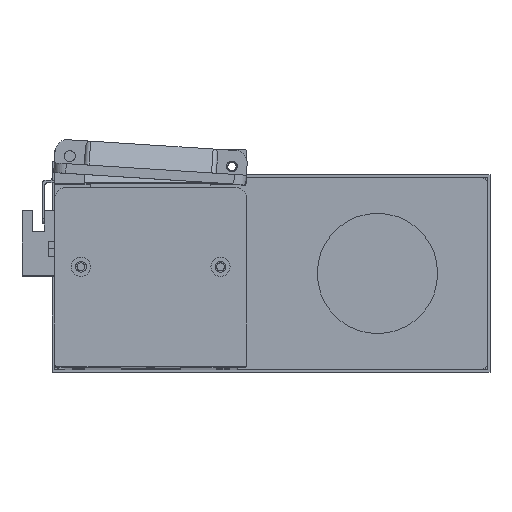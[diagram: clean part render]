
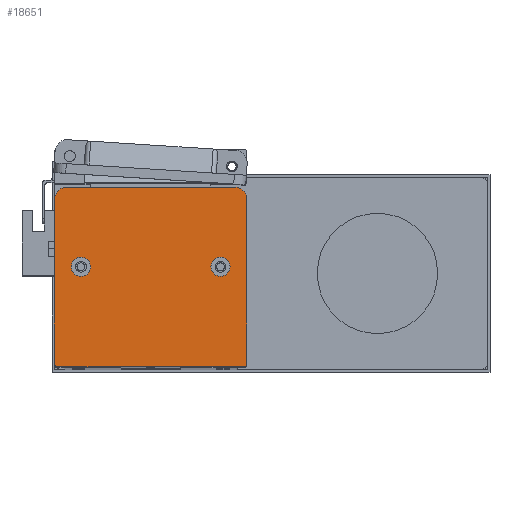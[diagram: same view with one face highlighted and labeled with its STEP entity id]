
A CAD part, top view. The second image highlights one B-rep face of the part: STEP entity #18651.
In plain terms, the highlighted planar face has unit normal (0, 0, 1).
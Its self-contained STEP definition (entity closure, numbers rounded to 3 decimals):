
#401 = EDGE_CURVE ( 'NONE', #26322, #2521, #24214, .T. ) ;
#1165 = DIRECTION ( 'NONE',  ( 1., 0., 0. ) ) ;
#1219 = ORIENTED_EDGE ( 'NONE', *, *, #8630, .T. ) ;
#1290 = CARTESIAN_POINT ( 'NONE',  ( 15., 41.5, 10. ) ) ;
#1306 = VERTEX_POINT ( 'NONE', #12352 ) ;
#1617 = VERTEX_POINT ( 'NONE', #2858 ) ;
#1730 = CIRCLE ( 'NONE', #23692, 1. ) ;
#1752 = DIRECTION ( 'NONE',  ( 0., 0., 1. ) ) ;
#2256 = AXIS2_PLACEMENT_3D ( 'NONE', #24479, #11619, #26517 ) ;
#2348 = ORIENTED_EDGE ( 'NONE', *, *, #23863, .T. ) ;
#2483 = LINE ( 'NONE', #19189, #27228 ) ;
#2521 = VERTEX_POINT ( 'NONE', #10063 ) ;
#2755 = EDGE_CURVE ( 'NONE', #24387, #23841, #13492, .T. ) ;
#2858 = CARTESIAN_POINT ( 'NONE',  ( 5., 74.5, 10. ) ) ;
#2881 = CARTESIAN_POINT ( 'NONE',  ( 0., 0., 10. ) ) ;
#3507 = CARTESIAN_POINT ( 'NONE',  ( 0., 1., 10. ) ) ;
#4190 = ORIENTED_EDGE ( 'NONE', *, *, #16160, .T. ) ;
#4386 = VERTEX_POINT ( 'NONE', #9203 ) ;
#4743 = EDGE_CURVE ( 'NONE', #26652, #25529, #10910, .T. ) ;
#4989 = CIRCLE ( 'NONE', #2256, 4. ) ;
#5044 = DIRECTION ( 'NONE',  ( 0., 0., -1. ) ) ;
#5208 = CARTESIAN_POINT ( 'NONE',  ( 0., 74.5, 10. ) ) ;
#6133 = DIRECTION ( 'NONE',  ( 0., 0., 1. ) ) ;
#6348 = DIRECTION ( 'NONE',  ( 1., 0., 0. ) ) ;
#6493 = CARTESIAN_POINT ( 'NONE',  ( 80., 1., 10. ) ) ;
#6532 = CARTESIAN_POINT ( 'NONE',  ( 75., 69.5, 10. ) ) ;
#6605 = DIRECTION ( 'NONE',  ( -1., 0., 0. ) ) ;
#6901 = CARTESIAN_POINT ( 'NONE',  ( 69., 41.5, 10. ) ) ;
#6928 = EDGE_LOOP ( 'NONE', ( #10564, #16354 ) ) ;
#7150 = EDGE_LOOP ( 'NONE', ( #1219, #4190, #16604, #13992, #17019, #9563, #25639, #2348 ) ) ;
#7920 = EDGE_CURVE ( 'NONE', #23841, #24387, #14467, .T. ) ;
#7951 = CARTESIAN_POINT ( 'NONE',  ( 79., 0., 10. ) ) ;
#8549 = CARTESIAN_POINT ( 'NONE',  ( 1., 1., 10. ) ) ;
#8630 = EDGE_CURVE ( 'NONE', #1306, #25738, #11110, .T. ) ;
#8976 = CARTESIAN_POINT ( 'NONE',  ( 0., 0., 10. ) ) ;
#9041 = DIRECTION ( 'NONE',  ( 1., 0., 0. ) ) ;
#9203 = CARTESIAN_POINT ( 'NONE',  ( 7., 41.5, 10. ) ) ;
#9448 = DIRECTION ( 'NONE',  ( -1., 0., 0. ) ) ;
#9563 = ORIENTED_EDGE ( 'NONE', *, *, #401, .T. ) ;
#10063 = CARTESIAN_POINT ( 'NONE',  ( 75., 74.5, 10. ) ) ;
#10564 = ORIENTED_EDGE ( 'NONE', *, *, #2755, .F. ) ;
#10601 = EDGE_CURVE ( 'NONE', #26390, #26652, #2483, .T. ) ;
#10723 = DIRECTION ( 'NONE',  ( -1., 0., 0. ) ) ;
#10775 = CARTESIAN_POINT ( 'NONE',  ( 79., 1., 10. ) ) ;
#10910 = CIRCLE ( 'NONE', #26630, 1. ) ;
#11075 = VECTOR ( 'NONE', #9448, 1000. ) ;
#11110 = LINE ( 'NONE', #8976, #11134 ) ;
#11134 = VECTOR ( 'NONE', #21812, 1000. ) ;
#11343 = PLANE ( 'NONE',  #24103 ) ;
#11422 = LINE ( 'NONE', #5208, #11075 ) ;
#11619 = DIRECTION ( 'NONE',  ( 0., 0., 1. ) ) ;
#11645 = VERTEX_POINT ( 'NONE', #1290 ) ;
#12311 = ORIENTED_EDGE ( 'NONE', *, *, #23315, .F. ) ;
#12352 = CARTESIAN_POINT ( 'NONE',  ( 0., 69.5, 10. ) ) ;
#12389 = CARTESIAN_POINT ( 'NONE',  ( 65., 41.5, 10. ) ) ;
#12750 = CARTESIAN_POINT ( 'NONE',  ( 80., 0., 10. ) ) ;
#12960 = DIRECTION ( 'NONE',  ( -1., 0., 0. ) ) ;
#13492 = CIRCLE ( 'NONE', #19014, 4. ) ;
#13760 = AXIS2_PLACEMENT_3D ( 'NONE', #6532, #19471, #6605 ) ;
#13980 = DIRECTION ( 'NONE',  ( 0., 0., 1. ) ) ;
#13992 = ORIENTED_EDGE ( 'NONE', *, *, #4743, .T. ) ;
#14206 = EDGE_CURVE ( 'NONE', #2521, #1617, #11422, .T. ) ;
#14467 = CIRCLE ( 'NONE', #15872, 4. ) ;
#14558 = CARTESIAN_POINT ( 'NONE',  ( 11., 41.5, 10. ) ) ;
#15316 = EDGE_CURVE ( 'NONE', #4386, #11645, #4989, .T. ) ;
#15388 = CIRCLE ( 'NONE', #18314, 5. ) ;
#15776 = FACE_BOUND ( 'NONE', #6928, .T. ) ;
#15805 = FACE_BOUND ( 'NONE', #22114, .T. ) ;
#15872 = AXIS2_PLACEMENT_3D ( 'NONE', #26692, #13980, #1165 ) ;
#15901 = FACE_OUTER_BOUND ( 'NONE', #7150, .T. ) ;
#16160 = EDGE_CURVE ( 'NONE', #25738, #26390, #1730, .T. ) ;
#16354 = ORIENTED_EDGE ( 'NONE', *, *, #7920, .F. ) ;
#16604 = ORIENTED_EDGE ( 'NONE', *, *, #10601, .T. ) ;
#16727 = DIRECTION ( 'NONE',  ( 1., 0., 0. ) ) ;
#17019 = ORIENTED_EDGE ( 'NONE', *, *, #25966, .T. ) ;
#18314 = AXIS2_PLACEMENT_3D ( 'NONE', #18972, #6133, #21130 ) ;
#18651 = ADVANCED_FACE ( 'NONE', ( #15776, #15805, #15901 ), #11343, .F. ) ;
#18972 = CARTESIAN_POINT ( 'NONE',  ( 5., 69.5, 10. ) ) ;
#19014 = AXIS2_PLACEMENT_3D ( 'NONE', #6901, #21876, #9041 ) ;
#19189 = CARTESIAN_POINT ( 'NONE',  ( 0., 0., 10. ) ) ;
#19471 = DIRECTION ( 'NONE',  ( 0., 0., 1. ) ) ;
#19837 = CARTESIAN_POINT ( 'NONE',  ( 1., 0., 10. ) ) ;
#20020 = DIRECTION ( 'NONE',  ( -1., 0., 0. ) ) ;
#20441 = LINE ( 'NONE', #12750, #20685 ) ;
#20685 = VECTOR ( 'NONE', #25491, 1000. ) ;
#20729 = CARTESIAN_POINT ( 'NONE',  ( 73., 41.5, 10. ) ) ;
#20807 = CIRCLE ( 'NONE', #26423, 4. ) ;
#21130 = DIRECTION ( 'NONE',  ( -1., 0., 0. ) ) ;
#21812 = DIRECTION ( 'NONE',  ( 0., -1., 0. ) ) ;
#21876 = DIRECTION ( 'NONE',  ( 0., 0., 1. ) ) ;
#22114 = EDGE_LOOP ( 'NONE', ( #12311, #23398 ) ) ;
#23315 = EDGE_CURVE ( 'NONE', #11645, #4386, #20807, .T. ) ;
#23398 = ORIENTED_EDGE ( 'NONE', *, *, #15316, .F. ) ;
#23545 = DIRECTION ( 'NONE',  ( 0., 0., 1. ) ) ;
#23692 = AXIS2_PLACEMENT_3D ( 'NONE', #8549, #23545, #10723 ) ;
#23841 = VERTEX_POINT ( 'NONE', #12389 ) ;
#23863 = EDGE_CURVE ( 'NONE', #1617, #1306, #15388, .T. ) ;
#24103 = AXIS2_PLACEMENT_3D ( 'NONE', #2881, #5044, #20020 ) ;
#24214 = CIRCLE ( 'NONE', #13760, 5. ) ;
#24387 = VERTEX_POINT ( 'NONE', #20729 ) ;
#24479 = CARTESIAN_POINT ( 'NONE',  ( 11., 41.5, 10. ) ) ;
#25491 = DIRECTION ( 'NONE',  ( 0., 1., 0. ) ) ;
#25529 = VERTEX_POINT ( 'NONE', #6493 ) ;
#25639 = ORIENTED_EDGE ( 'NONE', *, *, #14206, .T. ) ;
#25690 = DIRECTION ( 'NONE',  ( 0., 0., 1. ) ) ;
#25717 = CARTESIAN_POINT ( 'NONE',  ( 80., 69.5, 10. ) ) ;
#25738 = VERTEX_POINT ( 'NONE', #3507 ) ;
#25966 = EDGE_CURVE ( 'NONE', #25529, #26322, #20441, .T. ) ;
#26322 = VERTEX_POINT ( 'NONE', #25717 ) ;
#26390 = VERTEX_POINT ( 'NONE', #19837 ) ;
#26423 = AXIS2_PLACEMENT_3D ( 'NONE', #14558, #1752, #16727 ) ;
#26517 = DIRECTION ( 'NONE',  ( 1., 0., 0. ) ) ;
#26630 = AXIS2_PLACEMENT_3D ( 'NONE', #10775, #25690, #12960 ) ;
#26652 = VERTEX_POINT ( 'NONE', #7951 ) ;
#26692 = CARTESIAN_POINT ( 'NONE',  ( 69., 41.5, 10. ) ) ;
#27228 = VECTOR ( 'NONE', #6348, 1000. ) ;
